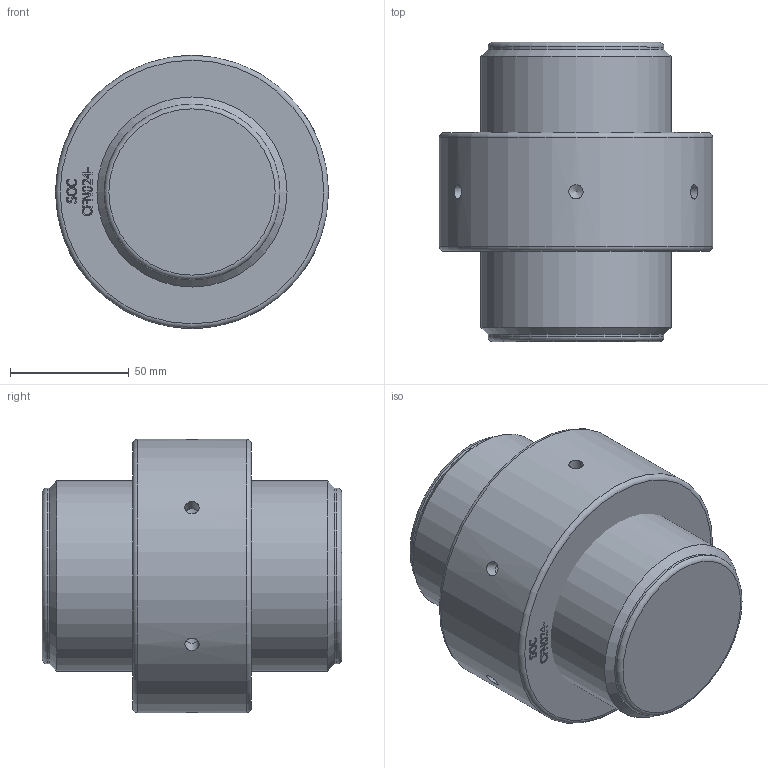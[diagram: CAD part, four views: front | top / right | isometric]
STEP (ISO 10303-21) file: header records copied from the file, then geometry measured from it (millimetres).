
FILE_DESCRIPTION(/* description */ (''),/* implementation_level */ '2;1');
FILE_NAME(/* name */ 'F:\Clienti LS\Redaelli\CYT\CYT\ARRNGEMENT\CYT024 61 061 0.stp',/* time_stamp */ '2021-05-09T08:41:51+02:00',/* author */ ('ranca'),/* organization */ (''),/* preprocessor_version */ 'ST-DEVELOPER v16.13',/* originating_system */ 'Autodesk Inventor 2018',/* authorisation */ '');
FILE_SCHEMA (('AUTOMOTIVE_DESIGN { 1 0 10303 214 3 1 1 }'));
Length unit declared in the file: millimetre
Products named in the file (3): CYT012-61-061-0; CYT012-61-061-0_1; CYT012-61-061-0_DADO
Assembly tree (2 placements, depth 2):
  CYT012-61-061-0
    CYT012-61-061-0_1
    CYT012-61-061-0_DADO
Bounding box: 115 x 126 x 115 mm (x, y, z)
Volume: 919141.5 mm3; surface area: 82123.7 mm2
Topology: 2 solids, 2 shells, 336 faces, 917 edges, 611 vertices
Faces by surface type: bspline 170, plane 143, cylinder 11, cone 8, torus 4
Full cylindrical faces by diameter (mm): 6 x6, 74 x2, 75.67 x1, 80 x1, 115 x1
Entity records: 11494 total; most frequent: CARTESIAN_POINT 4240, ORIENTED_EDGE 1762, DIRECTION 891, EDGE_CURVE 881, VERTEX_POINT 598, LINE 509, VECTOR 509, EDGE_LOOP 387
